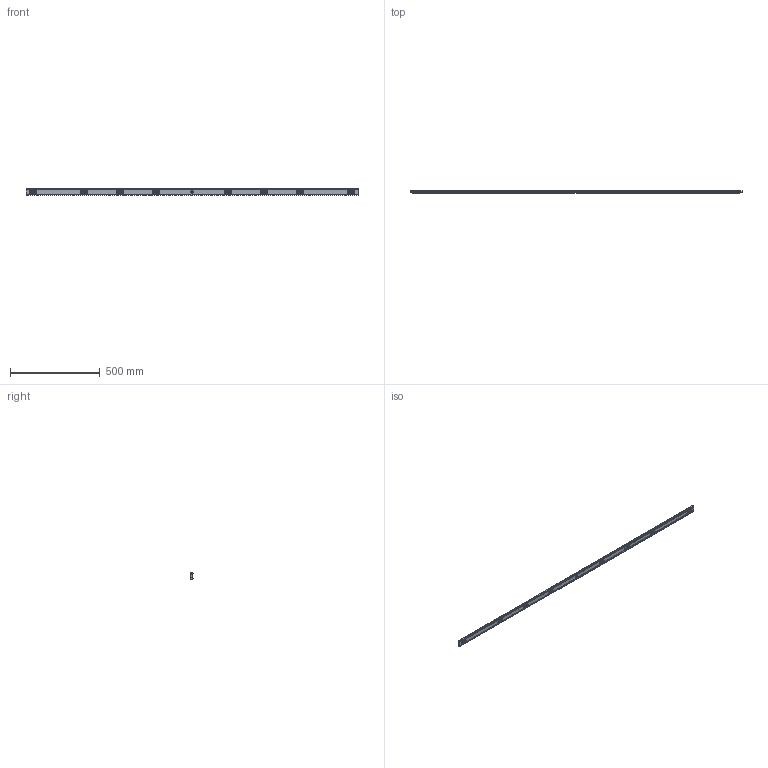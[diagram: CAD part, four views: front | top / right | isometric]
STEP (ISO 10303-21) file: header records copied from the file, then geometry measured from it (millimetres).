
FILE_DESCRIPTION(('Creo Elements/Direct Modeling STEP Export'),'2;1');
FILE_NAME('B3-1740.stp','2020-11-02T13:19:11',(''),(''),'Creo Elements/Direct Modeling STEP processor for AP214 (Solid Model)','Creo Elements/Direct Modeling 19.0G 27-Nov-2017 (C) Parametric Technology GmbH','');
FILE_SCHEMA(('AUTOMOTIVE_DESIGN { 1 0 10303 214 1 1 1 1 }'));
Products named in the file (2): PERFIL_SOPORTE_MECANIZADO_REGLA_SV3-1740
Assembly tree (1 placements, depth 2):
  PERFIL_SOPORTE_MECANIZADO_REGLA_SV3-1740
    PERFIL_SOPORTE_MECANIZADO_REGLA_SV3-1740
Bounding box: 1845 x 12.13 x 36.1 mm (x, y, z)
Volume: 445969.7 mm3; surface area: 229459.5 mm2
Topology: 1 solids, 1 shells, 2068 faces, 6114 edges, 4050 vertices
Faces by surface type: plane 1162, cylinder 694, cone 132, torus 40, bspline 40
Entity records: 77277 total; most frequent: CARTESIAN_POINT 16942, ORIENTED_EDGE 12204, DIRECTION 10332, EDGE_CURVE 6102, VERTEX_POINT 4050, VECTOR 3480, LINE 3480, AXIS2_PLACEMENT_3D 3426
